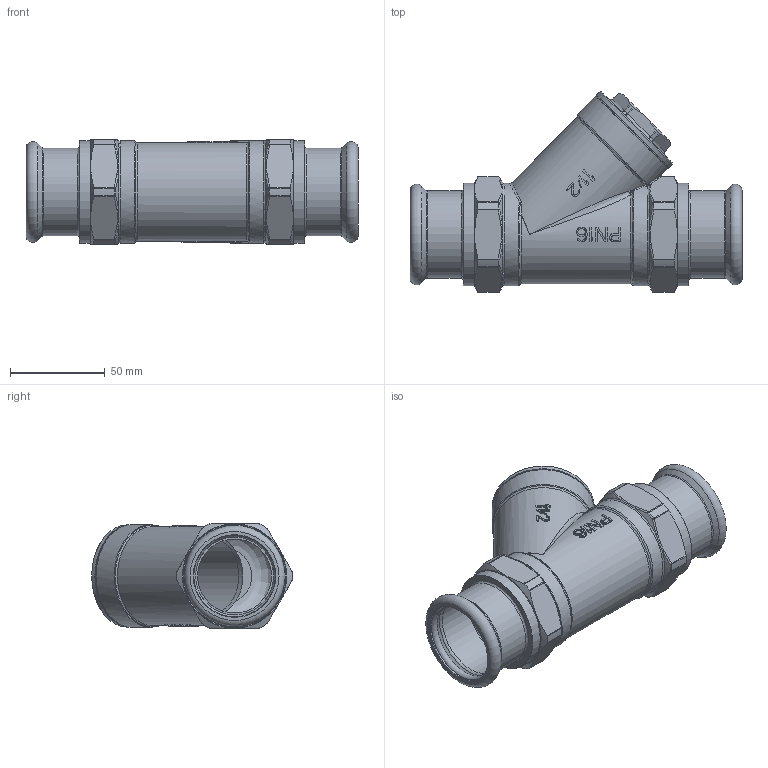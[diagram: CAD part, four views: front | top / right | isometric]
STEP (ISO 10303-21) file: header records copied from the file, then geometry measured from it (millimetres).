
FILE_DESCRIPTION((''),'2;1');
FILE_NAME('P:\Fastrack\53972_CRANE 3D\Press Fit\FIG_817-PF\Fig817-PF_42MM\Fig817-PF_42MM.stp','2012-02-08T15:18:53',('dcole'),(''),'Autodesk Inventor 2008','Autodesk Inventor 2008','');
FILE_SCHEMA(('AUTOMOTIVE_DESIGN { 1 0 10303 214 1 1 1 1 }'));
Length unit declared in the file: millimetre
Products named in the file (1): Fig817-PF_42MM
Bounding box: 175.2 x 105.87 x 55 mm (x, y, z)
Volume: 144548.8 mm3; surface area: 93290.6 mm2
Topology: 1 solids, 2 shells, 554 faces, 1352 edges, 826 vertices
Faces by surface type: bspline 199, plane 130, cylinder 104, cone 51, torus 46, sphere 24
Full cylindrical faces by diameter (mm): 30 x1, 39 x1, 40.4 x1, 41 x1, 41.2 x1, 42 x1, 42.35 x2, 43 x2, 44.85 x2, 45.6 x1, 46 x2, 47 x1, 48 x1, 48.5 x1, 48.55 x2, 53 x1, 54 x5
Entity records: 25777 total; most frequent: CARTESIAN_POINT 13378, ORIENTED_EDGE 2538, DIRECTION 2276, EDGE_CURVE 1269, AXIS2_PLACEMENT_3D 954, VERTEX_POINT 814, EDGE_LOOP 653, CIRCLE 598
